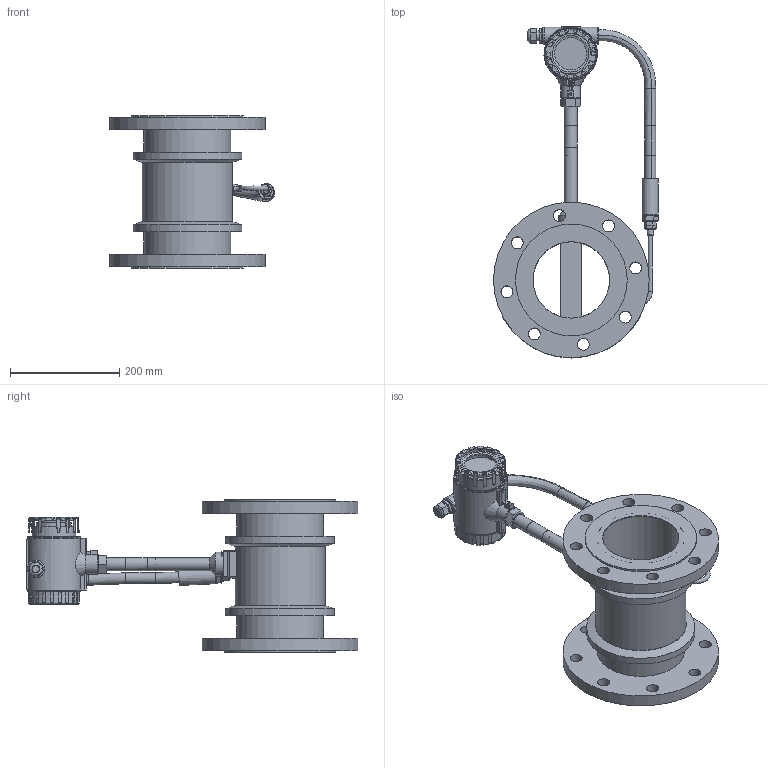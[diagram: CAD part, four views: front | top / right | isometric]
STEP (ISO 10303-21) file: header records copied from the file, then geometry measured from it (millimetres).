
FILE_DESCRIPTION(/* description */ ('STEP AP214'),/* implementation_level */ '2;1');
FILE_NAME(/* name */ 'DN150 vortex.step',/* time_stamp */ '2025-09-25T18:13:40+03:00',/* author */ (''),/* organization */ (''),/* preprocessor_version */ 'ST-DEVELOPER v20.1',/* originating_system */ 'Autodesk Translation Framework v14.10.0.0',/* authorisation */ '');
FILE_SCHEMA (('AUTOMOTIVE_DESIGN { 1 0 10303 214 3 1 1 }'));
Length unit declared in the file: millimetre
Products named in the file (1): DN100法兰连接装配体
Bounding box: 302.09 x 607.7 x 280.01 mm (x, y, z)
Volume: 4531277.1 mm3; surface area: 876852 mm2
Topology: 23 solids, 24 shells, 903 faces, 2218 edges, 1401 vertices
Faces by surface type: plane 509, cylinder 250, torus 59, cone 53, bspline 28, sphere 4
Full cylindrical faces by diameter (mm): 3.2 x1, 3.3 x1, 3.65 x2, 4.2 x10, 6 x12, 8 x4, 8.7 x2, 9 x2, 10 x1, 12 x1, 12.4 x1, 13 x1, 14 x1, 16 x2, 17.727 x4, 18 x6, 19 x7, 19.2 x2, 20 x1, 20.6 x1, 20.655 x1, 22 x16, 22.6 x1, 24 x3, 24.2 x1, 28 x2, 31.9 x2, 38 x1, 44 x1, 59 x1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
Entity records: 30790 total; most frequent: CARTESIAN_POINT 8868, DIRECTION 4790, ORIENTED_EDGE 4406, EDGE_CURVE 2203, AXIS2_PLACEMENT_3D 1827, VERTEX_POINT 1401, LINE 1136, VECTOR 1136
